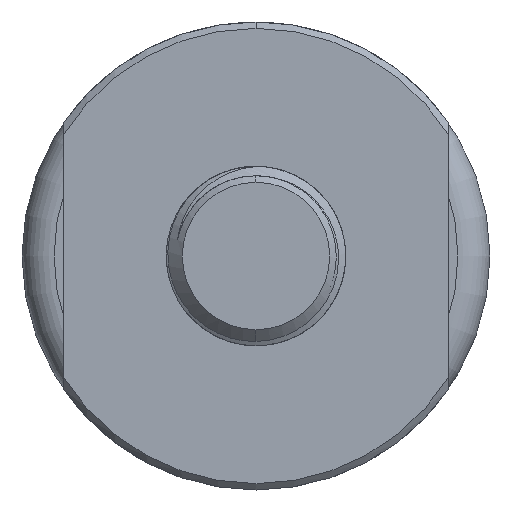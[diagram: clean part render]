
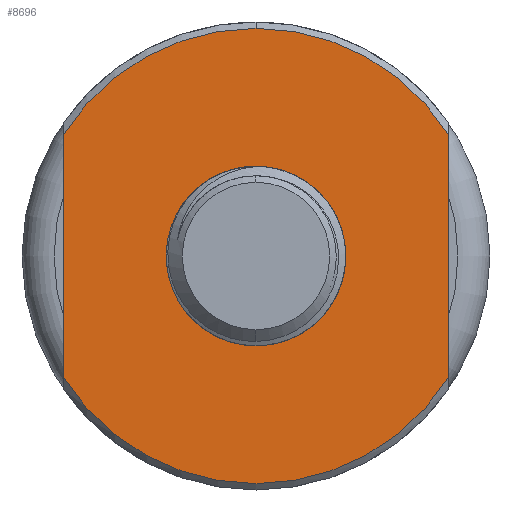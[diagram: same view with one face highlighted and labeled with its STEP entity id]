
A CAD part, front view. The second image highlights one B-rep face of the part: STEP entity #8696.
In plain terms, the highlighted planar face has unit normal (0, -1, 0).
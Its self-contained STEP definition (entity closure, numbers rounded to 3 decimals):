
#153 = DIRECTION ( 'NONE',  ( 0., 0., 1. ) ) ;
#186 = EDGE_CURVE ( 'NONE', #213, #4542, #7386, .T. ) ;
#213 = VERTEX_POINT ( 'NONE', #6938 ) ;
#298 = CARTESIAN_POINT ( 'NONE',  ( 0., 0., 0. ) ) ;
#388 = ORIENTED_EDGE ( 'NONE', *, *, #186, .F. ) ;
#425 = ORIENTED_EDGE ( 'NONE', *, *, #5927, .T. ) ;
#506 = CIRCLE ( 'NONE', #5890, 71. ) ;
#865 = CARTESIAN_POINT ( 'NONE',  ( 60., 0., -73. ) ) ;
#879 = CARTESIAN_POINT ( 'NONE',  ( 0., 0., 71. ) ) ;
#953 = VERTEX_POINT ( 'NONE', #6118 ) ;
#993 = AXIS2_PLACEMENT_3D ( 'NONE', #6937, #4287, #5557 ) ;
#1172 = VECTOR ( 'NONE', #153, 1000. ) ;
#1277 = CARTESIAN_POINT ( 'NONE',  ( 0., 0., -71. ) ) ;
#1322 = CARTESIAN_POINT ( 'NONE',  ( -60., 0., -73. ) ) ;
#2101 = DIRECTION ( 'NONE',  ( 0., 0., -1. ) ) ;
#2287 = DIRECTION ( 'NONE',  ( 0., -1., 0. ) ) ;
#2291 = AXIS2_PLACEMENT_3D ( 'NONE', #6135, #2760, #2101 ) ;
#2296 = VECTOR ( 'NONE', #4728, 1000. ) ;
#2349 = CIRCLE ( 'NONE', #7480, 28. ) ;
#2516 = EDGE_CURVE ( 'NONE', #2536, #4542, #506, .T. ) ;
#2536 = VERTEX_POINT ( 'NONE', #879 ) ;
#2541 = CIRCLE ( 'NONE', #993, 71. ) ;
#2550 = VERTEX_POINT ( 'NONE', #6900 ) ;
#2687 = EDGE_CURVE ( 'NONE', #4112, #2550, #2349, .T. ) ;
#2760 = DIRECTION ( 'NONE',  ( 0., -1., 0. ) ) ;
#2817 = CARTESIAN_POINT ( 'NONE',  ( 0., 0., 0. ) ) ;
#3062 = ORIENTED_EDGE ( 'NONE', *, *, #2516, .T. ) ;
#3301 = PLANE ( 'NONE',  #7404 ) ;
#3331 = EDGE_CURVE ( 'NONE', #953, #2536, #2541, .T. ) ;
#3627 = CARTESIAN_POINT ( 'NONE',  ( 5.947, 0., -27.361 ) ) ;
#3629 = DIRECTION ( 'NONE',  ( 0., -1., 0. ) ) ;
#4112 = VERTEX_POINT ( 'NONE', #3627 ) ;
#4205 = DIRECTION ( 'NONE',  ( 0., 0., -1. ) ) ;
#4287 = DIRECTION ( 'NONE',  ( 0., -1., 0. ) ) ;
#4542 = VERTEX_POINT ( 'NONE', #7703 ) ;
#4728 = DIRECTION ( 'NONE',  ( 0., 0., 1. ) ) ;
#4883 = DIRECTION ( 'NONE',  ( 0., 0., -1. ) ) ;
#4926 = ORIENTED_EDGE ( 'NONE', *, *, #2687, .F. ) ;
#5521 = DIRECTION ( 'NONE',  ( 0., -1., 0. ) ) ;
#5557 = DIRECTION ( 'NONE',  ( 0., 0., -1. ) ) ;
#5617 = CARTESIAN_POINT ( 'NONE',  ( 60., 0., -37.961 ) ) ;
#5656 = EDGE_CURVE ( 'NONE', #213, #8395, #7106, .T. ) ;
#5694 = AXIS2_PLACEMENT_3D ( 'NONE', #6426, #3629, #7756 ) ;
#5730 = ORIENTED_EDGE ( 'NONE', *, *, #3331, .T. ) ;
#5890 = AXIS2_PLACEMENT_3D ( 'NONE', #298, #2287, #7701 ) ;
#5927 = EDGE_CURVE ( 'NONE', #8395, #953, #6222, .T. ) ;
#6023 = ORIENTED_EDGE ( 'NONE', *, *, #7558, .F. ) ;
#6118 = CARTESIAN_POINT ( 'NONE',  ( 60., 0., 37.961 ) ) ;
#6135 = CARTESIAN_POINT ( 'NONE',  ( 0., 0., 0. ) ) ;
#6222 = LINE ( 'NONE', #865, #1172 ) ;
#6426 = CARTESIAN_POINT ( 'NONE',  ( 0., 0., 0. ) ) ;
#6832 = FACE_OUTER_BOUND ( 'NONE', #8452, .T. ) ;
#6900 = CARTESIAN_POINT ( 'NONE',  ( 23.545, 0., -15.154 ) ) ;
#6937 = CARTESIAN_POINT ( 'NONE',  ( 0., 0., 0. ) ) ;
#6938 = CARTESIAN_POINT ( 'NONE',  ( -60., 0., -37.961 ) ) ;
#6964 = DIRECTION ( 'NONE',  ( 0., -1., 0. ) ) ;
#7106 = CIRCLE ( 'NONE', #2291, 71. ) ;
#7108 = CIRCLE ( 'NONE', #5694, 28. ) ;
#7386 = LINE ( 'NONE', #1322, #2296 ) ;
#7404 = AXIS2_PLACEMENT_3D ( 'NONE', #1277, #6964, #4883 ) ;
#7480 = AXIS2_PLACEMENT_3D ( 'NONE', #2817, #5521, #4205 ) ;
#7558 = EDGE_CURVE ( 'NONE', #2550, #4112, #7108, .T. ) ;
#7635 = FACE_BOUND ( 'NONE', #7992, .T. ) ;
#7701 = DIRECTION ( 'NONE',  ( 0., 0., -1. ) ) ;
#7703 = CARTESIAN_POINT ( 'NONE',  ( -60., 0., 37.961 ) ) ;
#7756 = DIRECTION ( 'NONE',  ( 0., 0., -1. ) ) ;
#7992 = EDGE_LOOP ( 'NONE', ( #4926, #6023 ) ) ;
#8294 = ORIENTED_EDGE ( 'NONE', *, *, #5656, .T. ) ;
#8395 = VERTEX_POINT ( 'NONE', #5617 ) ;
#8452 = EDGE_LOOP ( 'NONE', ( #388, #8294, #425, #5730, #3062 ) ) ;
#8696 = ADVANCED_FACE ( 'NONE', ( #6832, #7635 ), #3301, .T. ) ;
